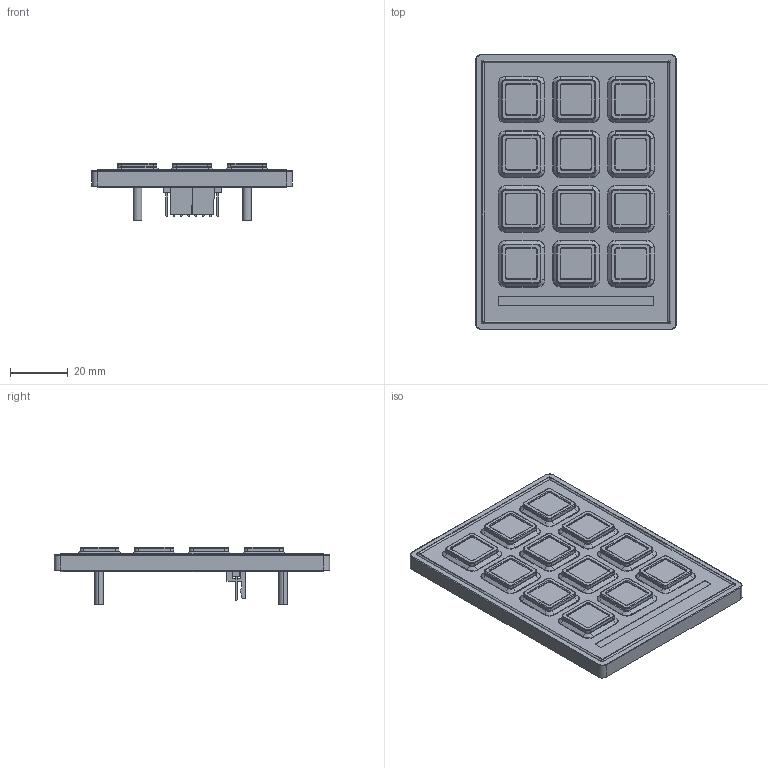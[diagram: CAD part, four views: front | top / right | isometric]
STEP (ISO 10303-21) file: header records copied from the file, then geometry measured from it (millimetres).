
FILE_DESCRIPTION (( 'STEP AP214' ), '1' );
FILE_NAME ('070-12-ASSY~1.STEP', '2016-02-29T11:38:35', ( '' ), ( '' ), 'SwSTEP 2.0', 'SolidWorks 2013', '' );
FILE_SCHEMA (( 'AUTOMOTIVE_DESIGN' ));
Length unit declared in the file: millimetre
Products named in the file (1): 070-12-ASSY~1
Bounding box: 69.72 x 95.62 x 19.8 mm (x, y, z)
Surface area: 28512.2 mm2 (no closed solid volume)
Topology: 0 solids, 33 shells, 958 faces, 2692 edges, 1731 vertices
Faces by surface type: plane 345, cylinder 336, torus 165, cone 60, bspline 52
Entity records: 43133 total; most frequent: CARTESIAN_POINT 8198, DIRECTION 5372, ORIENTED_EDGE 4590, EDGE_CURVE 2692, AXIS2_PLACEMENT_3D 1977, VERTEX_POINT 1731, VECTOR 1418, LINE 1418
